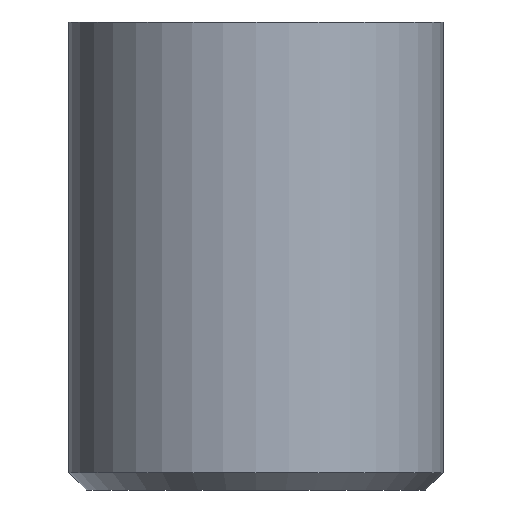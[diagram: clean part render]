
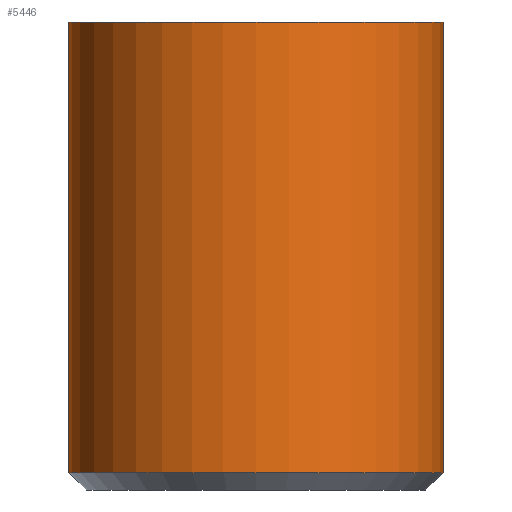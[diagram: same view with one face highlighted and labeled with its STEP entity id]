
A CAD part, front view. The second image highlights one B-rep face of the part: STEP entity #5446.
In plain terms, the highlighted cylindrical face has radius 4 mm (diameter 8 mm), a full revolution.
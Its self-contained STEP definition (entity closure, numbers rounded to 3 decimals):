
#700=CYLINDRICAL_SURFACE('',#5539,4.);
#1015=FACE_OUTER_BOUND('',#1332,.T.);
#1332=EDGE_LOOP('',(#5074,#5075,#5076,#5077));
#1338=CIRCLE('',#5522,4.);
#1342=CIRCLE('',#5537,4.);
#1704=LINE('',#11590,#2065);
#2065=VECTOR('',#6058,4.);
#2609=VERTEX_POINT('',#11561);
#2613=VERTEX_POINT('',#11584);
#3427=EDGE_CURVE('',#2609,#2609,#1338,.T.);
#3435=EDGE_CURVE('',#2613,#2613,#1342,.T.);
#3438=EDGE_CURVE('',#2609,#2613,#1704,.T.);
#5074=ORIENTED_EDGE('',*,*,#3427,.F.);
#5075=ORIENTED_EDGE('',*,*,#3438,.T.);
#5076=ORIENTED_EDGE('',*,*,#3435,.F.);
#5077=ORIENTED_EDGE('',*,*,#3438,.F.);
#5446=ADVANCED_FACE('',(#1015),#700,.T.);
#5522=AXIS2_PLACEMENT_3D('',#11562,#6017,#6018);
#5537=AXIS2_PLACEMENT_3D('',#11585,#6051,#6052);
#5539=AXIS2_PLACEMENT_3D('',#11589,#6056,#6057);
#6017=DIRECTION('center_axis',(0.,0.,1.));
#6018=DIRECTION('ref_axis',(1.,0.,0.));
#6051=DIRECTION('center_axis',(0.,0.,-1.));
#6052=DIRECTION('ref_axis',(1.,0.,0.));
#6056=DIRECTION('center_axis',(0.,0.,1.));
#6057=DIRECTION('ref_axis',(1.,0.,0.));
#6058=DIRECTION('',(0.,0.,-1.));
#11561=CARTESIAN_POINT('',(-4.,0.,10.));
#11562=CARTESIAN_POINT('Origin',(0.,0.,10.));
#11584=CARTESIAN_POINT('',(-4.,0.,0.37));
#11585=CARTESIAN_POINT('Origin',(0.,0.,0.37));
#11589=CARTESIAN_POINT('Origin',(0.,0.,0.));
#11590=CARTESIAN_POINT('',(-4.,0.,0.));
